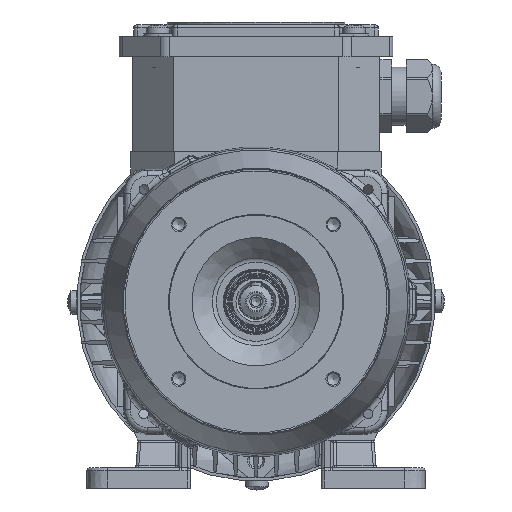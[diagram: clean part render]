
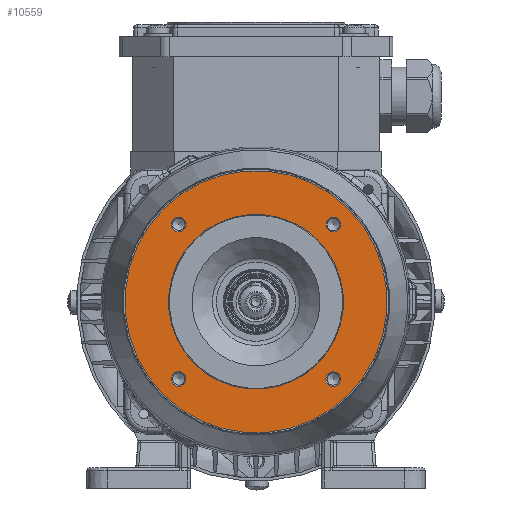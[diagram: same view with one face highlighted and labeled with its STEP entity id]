
A CAD part, front view. The second image highlights one B-rep face of the part: STEP entity #10559.
In plain terms, the highlighted planar face has unit normal (0, -1, 0).
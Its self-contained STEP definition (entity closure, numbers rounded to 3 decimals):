
#6175=FACE_BOUND('',#17813,.T.);
#6176=FACE_BOUND('',#17814,.T.);
#6177=FACE_BOUND('',#17815,.T.);
#6178=FACE_BOUND('',#17816,.T.);
#6179=FACE_BOUND('',#17817,.T.);
#6180=FACE_BOUND('',#17818,.T.);
#10559=ADVANCED_FACE('',(#6175,#6176,#6177,#6178,#6179,#6180),#12787,.T.);
#12787=PLANE('',#59876);
#17813=EDGE_LOOP('',(#28436));
#17814=EDGE_LOOP('',(#28437));
#17815=EDGE_LOOP('',(#28438));
#17816=EDGE_LOOP('',(#28439));
#17817=EDGE_LOOP('',(#28440));
#17818=EDGE_LOOP('',(#28441));
#28436=ORIENTED_EDGE('',*,*,#43658,.T.);
#28437=ORIENTED_EDGE('',*,*,#43659,.T.);
#28438=ORIENTED_EDGE('',*,*,#43660,.T.);
#28439=ORIENTED_EDGE('',*,*,#43661,.T.);
#28440=ORIENTED_EDGE('',*,*,#43662,.T.);
#28441=ORIENTED_EDGE('',*,*,#43663,.T.);
#37348=VERTEX_POINT('',#90598);
#37349=VERTEX_POINT('',#90600);
#37350=VERTEX_POINT('',#90602);
#37351=VERTEX_POINT('',#90604);
#37352=VERTEX_POINT('',#90606);
#37353=VERTEX_POINT('',#90608);
#43658=EDGE_CURVE('',#37348,#37348,#54828,.T.);
#43659=EDGE_CURVE('',#37349,#37349,#54829,.T.);
#43660=EDGE_CURVE('',#37350,#37350,#54830,.T.);
#43661=EDGE_CURVE('',#37351,#37351,#54831,.T.);
#43662=EDGE_CURVE('',#37352,#37352,#54832,.T.);
#43663=EDGE_CURVE('',#37353,#37353,#54833,.T.);
#54828=CIRCLE('',#59870,2.5);
#54829=CIRCLE('',#59871,2.5);
#54830=CIRCLE('',#59872,2.5);
#54831=CIRCLE('',#59873,2.5);
#54832=CIRCLE('',#59874,30.);
#54833=CIRCLE('',#59875,45.);
#59870=AXIS2_PLACEMENT_3D('',#90597,#70947,#70948);
#59871=AXIS2_PLACEMENT_3D('',#90599,#70949,#70950);
#59872=AXIS2_PLACEMENT_3D('',#90601,#70951,#70952);
#59873=AXIS2_PLACEMENT_3D('',#90603,#70953,#70954);
#59874=AXIS2_PLACEMENT_3D('',#90605,#70955,#70956);
#59875=AXIS2_PLACEMENT_3D('',#90607,#70957,#70958);
#59876=AXIS2_PLACEMENT_3D('',#90609,#70959,#70960);
#70947=DIRECTION('',(0.,1.,0.));
#70948=DIRECTION('',(-0.707,0.,0.708));
#70949=DIRECTION('',(0.,1.,0.));
#70950=DIRECTION('',(-0.707,0.,0.708));
#70951=DIRECTION('',(0.,1.,0.));
#70952=DIRECTION('',(-0.707,0.,0.708));
#70953=DIRECTION('',(0.,1.,0.));
#70954=DIRECTION('',(-0.707,0.,0.708));
#70955=DIRECTION('',(0.,1.,0.));
#70956=DIRECTION('',(0.707,0.,-0.708));
#70957=DIRECTION('',(0.,-1.,0.));
#70958=DIRECTION('',(0.707,0.,-0.708));
#70959=DIRECTION('',(0.,-1.,0.));
#70960=DIRECTION('',(-0.707,0.,0.708));
#90597=CARTESIAN_POINT('',(26.5,-42.5,-26.533));
#90598=CARTESIAN_POINT('',(24.734,-42.5,-24.764));
#90599=CARTESIAN_POINT('',(-26.5,-42.5,26.533));
#90600=CARTESIAN_POINT('',(-28.267,-42.5,28.302));
#90601=CARTESIAN_POINT('',(-26.533,-42.5,-26.5));
#90602=CARTESIAN_POINT('',(-28.299,-42.5,-24.731));
#90603=CARTESIAN_POINT('',(26.533,-42.5,26.5));
#90604=CARTESIAN_POINT('',(24.766,-42.5,28.269));
#90605=CARTESIAN_POINT('',(0.,-42.5,0.));
#90606=CARTESIAN_POINT('',(21.2,-42.5,-21.226));
#90607=CARTESIAN_POINT('',(0.,-42.5,0.));
#90608=CARTESIAN_POINT('',(31.8,-42.5,-31.839));
#90609=CARTESIAN_POINT('',(0.,-42.5,0.));
